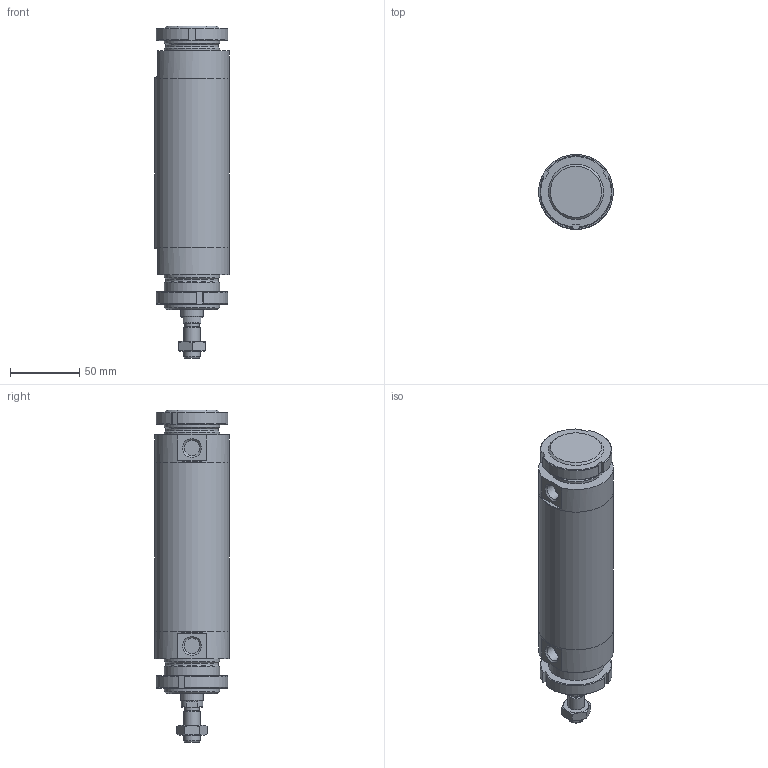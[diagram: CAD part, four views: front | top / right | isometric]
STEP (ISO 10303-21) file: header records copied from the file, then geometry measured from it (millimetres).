
FILE_DESCRIPTION(/* description */ (''),/* implementation_level */ '2;1');
FILE_NAME(/* name */ 'I:\Area Tecnica\Documenti\A-Manieri\_Inventor\12X\12X#C_###_####_#_#\12XAC_050_0080_#_#.stp',/* time_stamp */ '2015-04-28T15:19:43+02:00',/* author */ ('maniean1'),/* organization */ ('Pneumax S.p.A.'),/* preprocessor_version */ 'ST-DEVELOPER v15.2',/* originating_system */ 'Autodesk Inventor 2014',/* authorisation */ '');
FILE_SCHEMA (('AUTOMOTIVE_DESIGN { 1 0 10303 214 3 1 1 }'));
Length unit declared in the file: millimetre
Products named in the file (7): C1250_619-0080; 12X50_604; S12X50_0080; 12X_50_11; 12X50_620; G12X_050_05; 12XAC_050_0080_#_#
Bounding box: 54 x 54 x 240 mm (x, y, z)
Volume: 303644.9 mm3; surface area: 91866 mm2
Topology: 7 solids, 7 shells, 106 faces, 240 edges, 154 vertices
Faces by surface type: plane 52, cylinder 27, cone 27
Full cylindrical faces by diameter (mm): 10.2 x1, 11.4 x2, 12 x2, 14 x1, 15.6 x1, 16 x1, 38.2 x2, 40 x6, 50 x2, 54 x3
Entity records: 2243 total; most frequent: CARTESIAN_POINT 413, DIRECTION 382, ORIENTED_EDGE 292, AXIS2_PLACEMENT_3D 165, EDGE_CURVE 146, EDGE_LOOP 132, VERTEX_POINT 112, ADVANCED_FACE 85
